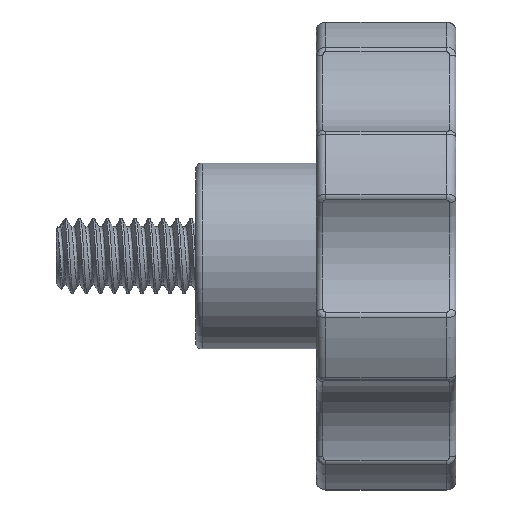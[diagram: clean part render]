
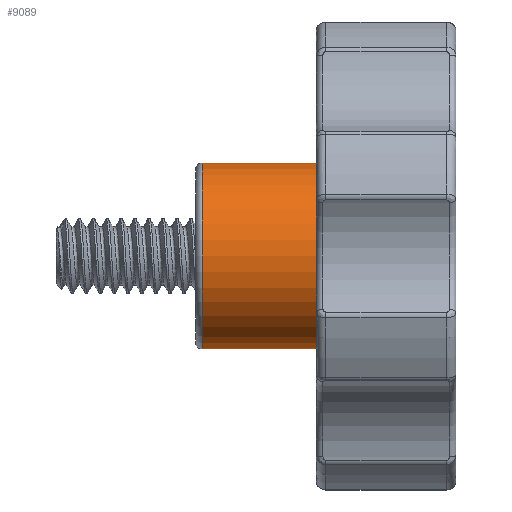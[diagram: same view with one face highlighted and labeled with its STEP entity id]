
A CAD part, left-side view. The second image highlights one B-rep face of the part: STEP entity #9089.
In plain terms, the highlighted cylindrical face has radius 10 mm (diameter 20 mm), a partial arc.
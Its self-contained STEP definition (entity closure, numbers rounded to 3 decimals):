
#79 = VERTEX_POINT ( 'NONE', #5295 ) ;
#113 = CARTESIAN_POINT ( 'NONE',  ( 0., 27.3, -10. ) ) ;
#156 = DIRECTION ( 'NONE',  ( 0., 0., -1. ) ) ;
#217 = EDGE_CURVE ( 'NONE', #79, #6351, #3743, .T. ) ;
#248 = VERTEX_POINT ( 'NONE', #1620 ) ;
#940 = CARTESIAN_POINT ( 'NONE',  ( 0., 3.7, 10. ) ) ;
#1101 = EDGE_CURVE ( 'NONE', #9292, #248, #5305, .T. ) ;
#1114 = AXIS2_PLACEMENT_3D ( 'NONE', #9531, #9494, #156 ) ;
#1564 = ORIENTED_EDGE ( 'NONE', *, *, #8825, .T. ) ;
#1620 = CARTESIAN_POINT ( 'NONE',  ( 0., 3.7, -10. ) ) ;
#3143 = CARTESIAN_POINT ( 'NONE',  ( 0., 0., 10. ) ) ;
#3743 = LINE ( 'NONE', #3143, #10228 ) ;
#4029 = CARTESIAN_POINT ( 'NONE',  ( 0., 3.7, 0. ) ) ;
#4416 = CARTESIAN_POINT ( 'NONE',  ( 0., 0., -10. ) ) ;
#4722 = EDGE_CURVE ( 'NONE', #79, #9292, #9375, .T. ) ;
#4847 = DIRECTION ( 'NONE',  ( 0., 0., -1. ) ) ;
#5029 = DIRECTION ( 'NONE',  ( 0., -1., 0. ) ) ;
#5224 = EDGE_LOOP ( 'NONE', ( #5449, #7054, #8738, #1564 ) ) ;
#5295 = CARTESIAN_POINT ( 'NONE',  ( 0., 27.3, 10. ) ) ;
#5305 = LINE ( 'NONE', #4416, #7298 ) ;
#5449 = ORIENTED_EDGE ( 'NONE', *, *, #217, .F. ) ;
#5889 = CARTESIAN_POINT ( 'NONE',  ( 0., 0., 0. ) ) ;
#5939 = AXIS2_PLACEMENT_3D ( 'NONE', #5889, #5029, #10168 ) ;
#6351 = VERTEX_POINT ( 'NONE', #940 ) ;
#6633 = FACE_OUTER_BOUND ( 'NONE', #5224, .T. ) ;
#6861 = DIRECTION ( 'NONE',  ( 0., -1., 0. ) ) ;
#7054 = ORIENTED_EDGE ( 'NONE', *, *, #4722, .T. ) ;
#7298 = VECTOR ( 'NONE', #6861, 1000. ) ;
#7365 = DIRECTION ( 'NONE',  ( 0., -1., 0. ) ) ;
#8642 = CYLINDRICAL_SURFACE ( 'NONE', #5939, 10. ) ;
#8738 = ORIENTED_EDGE ( 'NONE', *, *, #1101, .T. ) ;
#8825 = EDGE_CURVE ( 'NONE', #248, #6351, #9711, .T. ) ;
#9089 = ADVANCED_FACE ( 'NONE', ( #6633 ), #8642, .T. ) ;
#9292 = VERTEX_POINT ( 'NONE', #113 ) ;
#9375 = CIRCLE ( 'NONE', #1114, 10. ) ;
#9494 = DIRECTION ( 'NONE',  ( 0., -1., 0. ) ) ;
#9531 = CARTESIAN_POINT ( 'NONE',  ( 0., 27.3, 0. ) ) ;
#9711 = CIRCLE ( 'NONE', #10723, 10. ) ;
#9959 = DIRECTION ( 'NONE',  ( 0., 1., 0. ) ) ;
#10168 = DIRECTION ( 'NONE',  ( 0., 0., -1. ) ) ;
#10228 = VECTOR ( 'NONE', #7365, 1000. ) ;
#10723 = AXIS2_PLACEMENT_3D ( 'NONE', #4029, #9959, #4847 ) ;
